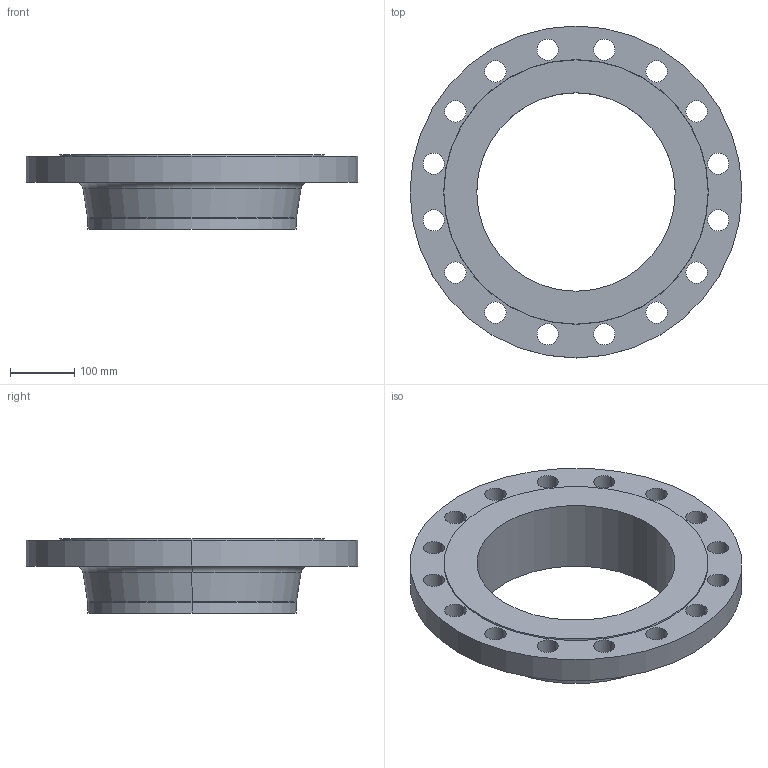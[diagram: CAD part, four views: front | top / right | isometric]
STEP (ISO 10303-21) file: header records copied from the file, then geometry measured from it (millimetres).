
FILE_DESCRIPTION (( 'STEP AP214' ), '1' );
FILE_NAME ('PN40 DN300 Type 11 - Type B Face.STEP', '2019-01-05T20:25:43', ( '' ), ( '' ), 'SwSTEP 2.0', 'SolidWorks 2019', '' );
FILE_SCHEMA (( 'AUTOMOTIVE_DESIGN' ));
Length unit declared in the file: millimetre
Products named in the file (1): PN40 DN300 Type 11 - Type B Face
Bounding box: 515 x 515 x 115 mm (x, y, z)
Volume: 5779439.2 mm3; surface area: 548402.8 mm2
Topology: 1 solids, 1 shells, 50 faces, 132 edges, 86 vertices
Faces by surface type: cylinder 38, cone 4, torus 4, plane 4
Entity records: 1700 total; most frequent: DIRECTION 324, CARTESIAN_POINT 269, ORIENTED_EDGE 264, AXIS2_PLACEMENT_3D 141, EDGE_CURVE 132, CIRCLE 90, EDGE_LOOP 86, VERTEX_POINT 86
